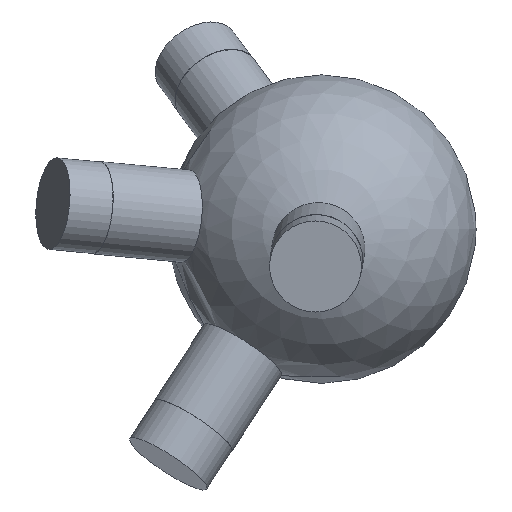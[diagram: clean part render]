
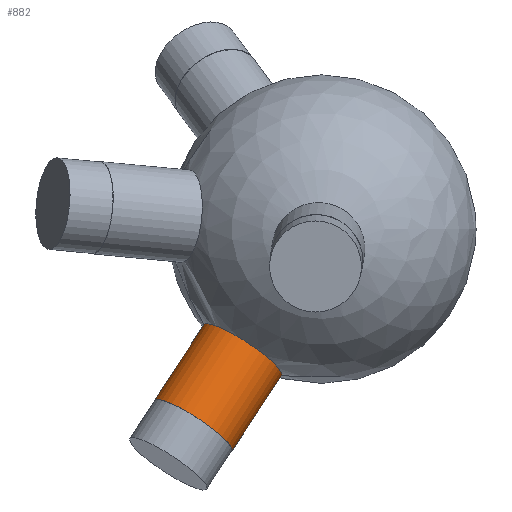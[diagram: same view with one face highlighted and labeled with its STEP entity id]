
A CAD part, top view. The second image highlights one B-rep face of the part: STEP entity #882.
In plain terms, the highlighted cylindrical face has radius 6 mm (diameter 12 mm), a full revolution.
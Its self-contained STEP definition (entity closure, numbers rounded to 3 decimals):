
#33 = SPHERICAL_SURFACE('',#34,20.);
#34 = AXIS2_PLACEMENT_3D('',#35,#36,#37);
#35 = CARTESIAN_POINT('',(0.,0.,0.));
#36 = DIRECTION('',(0.,0.,1.));
#37 = DIRECTION('',(1.,0.,-0.));
#577 = EDGE_CURVE('',#578,#578,#580,.T.);
#578 = VERTEX_POINT('',#579);
#579 = CARTESIAN_POINT('',(-15.273,-12.398,3.609
    ));
#580 = SURFACE_CURVE('',#581,(#586,#648),.PCURVE_S1.);
#581 = CIRCLE('',#582,6.);
#582 = AXIS2_PLACEMENT_3D('',#583,#584,#585);
#583 = CARTESIAN_POINT('',(-10.251,-15.681,3.609
    ));
#584 = DIRECTION('',(-0.537,-0.822,0.189));
#585 = DIRECTION('',(0.837,-0.547,0.)
  );
#586 = PCURVE('',#33,#587);
#587 = DEFINITIONAL_REPRESENTATION('',(#588),#647);
#588 = B_SPLINE_CURVE_WITH_KNOTS('',8,(#589,#590,#591,#592,#593,#594,
    #595,#596,#597,#598,#599,#600,#601,#602,#603,#604,#605,#606,#607,
    #608,#609,#610,#611,#612,#613,#614,#615,#616,#617,#618,#619,#620,
    #621,#622,#623,#624,#625,#626,#627,#628,#629,#630,#631,#632,#633,
    #634,#635,#636,#637,#638,#639,#640,#641,#642,#643,#644,#645,#646),
  .UNSPECIFIED.,.F.,.F.,(9,7,7,7,7,7,7,7,9),(3.142,
    3.927,4.614,5.216,6.268,
    7.057,7.649,8.537,9.425),
  .UNSPECIFIED.);
#589 = CARTESIAN_POINT('',(3.823,0.181));
#590 = CARTESIAN_POINT('',(3.825,0.152));
#591 = CARTESIAN_POINT('',(3.83,0.123));
#592 = CARTESIAN_POINT('',(3.838,0.094));
#593 = CARTESIAN_POINT('',(3.849,0.066));
#594 = CARTESIAN_POINT('',(3.863,0.04));
#595 = CARTESIAN_POINT('',(3.879,0.015));
#596 = CARTESIAN_POINT('',(3.898,-0.007));
#597 = CARTESIAN_POINT('',(3.938,-0.046));
#598 = CARTESIAN_POINT('',(3.958,-0.062));
#599 = CARTESIAN_POINT('',(3.98,-0.076));
#600 = CARTESIAN_POINT('',(4.003,-0.088));
#601 = CARTESIAN_POINT('',(4.027,-0.098));
#602 = CARTESIAN_POINT('',(4.052,-0.106));
#603 = CARTESIAN_POINT('',(4.078,-0.11));
#604 = CARTESIAN_POINT('',(4.126,-0.115));
#605 = CARTESIAN_POINT('',(4.149,-0.115));
#606 = CARTESIAN_POINT('',(4.172,-0.114));
#607 = CARTESIAN_POINT('',(4.195,-0.11));
#608 = CARTESIAN_POINT('',(4.217,-0.105));
#609 = CARTESIAN_POINT('',(4.238,-0.097));
#610 = CARTESIAN_POINT('',(4.259,-0.088));
#611 = CARTESIAN_POINT('',(4.314,-0.059));
#612 = CARTESIAN_POINT('',(4.346,-0.035));
#613 = CARTESIAN_POINT('',(4.374,-0.007));
#614 = CARTESIAN_POINT('',(4.398,0.026));
#615 = CARTESIAN_POINT('',(4.418,0.061));
#616 = CARTESIAN_POINT('',(4.432,0.099));
#617 = CARTESIAN_POINT('',(4.44,0.137));
#618 = CARTESIAN_POINT('',(4.445,0.206));
#619 = CARTESIAN_POINT('',(4.444,0.236));
#620 = CARTESIAN_POINT('',(4.44,0.266));
#621 = CARTESIAN_POINT('',(4.432,0.295));
#622 = CARTESIAN_POINT('',(4.421,0.323));
#623 = CARTESIAN_POINT('',(4.407,0.349));
#624 = CARTESIAN_POINT('',(4.389,0.374));
#625 = CARTESIAN_POINT('',(4.353,0.414));
#626 = CARTESIAN_POINT('',(4.335,0.429));
#627 = CARTESIAN_POINT('',(4.316,0.443));
#628 = CARTESIAN_POINT('',(4.296,0.456));
#629 = CARTESIAN_POINT('',(4.274,0.467));
#630 = CARTESIAN_POINT('',(4.251,0.476));
#631 = CARTESIAN_POINT('',(4.227,0.483));
#632 = CARTESIAN_POINT('',(4.166,0.496));
#633 = CARTESIAN_POINT('',(4.128,0.498));
#634 = CARTESIAN_POINT('',(4.089,0.497));
#635 = CARTESIAN_POINT('',(4.051,0.49));
#636 = CARTESIAN_POINT('',(4.015,0.479));
#637 = CARTESIAN_POINT('',(3.982,0.463));
#638 = CARTESIAN_POINT('',(3.951,0.444));
#639 = CARTESIAN_POINT('',(3.898,0.399));
#640 = CARTESIAN_POINT('',(3.874,0.373));
#641 = CARTESIAN_POINT('',(3.855,0.344));
#642 = CARTESIAN_POINT('',(3.84,0.314));
#643 = CARTESIAN_POINT('',(3.83,0.281));
#644 = CARTESIAN_POINT('',(3.824,0.248));
#645 = CARTESIAN_POINT('',(3.822,0.215));
#646 = CARTESIAN_POINT('',(3.823,0.181));
#647 = ( GEOMETRIC_REPRESENTATION_CONTEXT(2) 
PARAMETRIC_REPRESENTATION_CONTEXT() REPRESENTATION_CONTEXT('2D SPACE',''
  ) );
#648 = PCURVE('',#649,#654);
#649 = CYLINDRICAL_SURFACE('',#650,6.);
#650 = AXIS2_PLACEMENT_3D('',#651,#652,#653);
#651 = CARTESIAN_POINT('',(0.,0.,0.));
#652 = DIRECTION('',(-0.537,-0.822,0.189));
#653 = DIRECTION('',(-0.837,0.547,0.)
  );
#654 = DEFINITIONAL_REPRESENTATION('',(#655),#659);
#655 = LINE('',#656,#657);
#656 = CARTESIAN_POINT('',(-3.142,19.079));
#657 = VECTOR('',#658,1.);
#658 = DIRECTION('',(1.,0.));
#659 = ( GEOMETRIC_REPRESENTATION_CONTEXT(2) 
PARAMETRIC_REPRESENTATION_CONTEXT() REPRESENTATION_CONTEXT('2D SPACE',''
  ) );
#882 = ADVANCED_FACE('',(#883),#649,.T.);
#883 = FACE_BOUND('',#884,.T.);
#884 = EDGE_LOOP('',(#885,#908,#935,#936));
#885 = ORIENTED_EDGE('',*,*,#886,.T.);
#886 = EDGE_CURVE('',#578,#887,#889,.T.);
#887 = VERTEX_POINT('',#888);
#888 = CARTESIAN_POINT('',(-21.678,-22.196,
    5.863));
#889 = SEAM_CURVE('',#890,(#894,#901),.PCURVE_S1.);
#890 = LINE('',#891,#892);
#891 = CARTESIAN_POINT('',(-5.022,3.283,
    0.));
#892 = VECTOR('',#893,1.);
#893 = DIRECTION('',(-0.537,-0.822,0.189));
#894 = PCURVE('',#649,#895);
#895 = DEFINITIONAL_REPRESENTATION('',(#896),#900);
#896 = LINE('',#897,#898);
#897 = CARTESIAN_POINT('',(6.283,-0.));
#898 = VECTOR('',#899,1.);
#899 = DIRECTION('',(0.,1.));
#900 = ( GEOMETRIC_REPRESENTATION_CONTEXT(2) 
PARAMETRIC_REPRESENTATION_CONTEXT() REPRESENTATION_CONTEXT('2D SPACE',''
  ) );
#901 = PCURVE('',#649,#902);
#902 = DEFINITIONAL_REPRESENTATION('',(#903),#907);
#903 = LINE('',#904,#905);
#904 = CARTESIAN_POINT('',(0.,-0.));
#905 = VECTOR('',#906,1.);
#906 = DIRECTION('',(0.,1.));
#907 = ( GEOMETRIC_REPRESENTATION_CONTEXT(2) 
PARAMETRIC_REPRESENTATION_CONTEXT() REPRESENTATION_CONTEXT('2D SPACE',''
  ) );
#908 = ORIENTED_EDGE('',*,*,#909,.F.);
#909 = EDGE_CURVE('',#887,#887,#910,.T.);
#910 = SURFACE_CURVE('',#911,(#916,#923),.PCURVE_S1.);
#911 = CIRCLE('',#912,6.);
#912 = AXIS2_PLACEMENT_3D('',#913,#914,#915);
#913 = CARTESIAN_POINT('',(-16.656,-25.479,5.863)
  );
#914 = DIRECTION('',(-0.537,-0.822,0.189));
#915 = DIRECTION('',(-0.837,0.547,0.)
  );
#916 = PCURVE('',#649,#917);
#917 = DEFINITIONAL_REPRESENTATION('',(#918),#922);
#918 = LINE('',#919,#920);
#919 = CARTESIAN_POINT('',(0.,31.));
#920 = VECTOR('',#921,1.);
#921 = DIRECTION('',(1.,0.));
#922 = ( GEOMETRIC_REPRESENTATION_CONTEXT(2) 
PARAMETRIC_REPRESENTATION_CONTEXT() REPRESENTATION_CONTEXT('2D SPACE',''
  ) );
#923 = PCURVE('',#924,#929);
#924 = PLANE('',#925);
#925 = AXIS2_PLACEMENT_3D('',#926,#927,#928);
#926 = CARTESIAN_POINT('',(-16.656,-25.479,5.863)
  );
#927 = DIRECTION('',(-0.537,-0.822,0.189));
#928 = DIRECTION('',(-0.837,0.547,0.)
  );
#929 = DEFINITIONAL_REPRESENTATION('',(#930),#934);
#930 = CIRCLE('',#931,6.);
#931 = AXIS2_PLACEMENT_2D('',#932,#933);
#932 = CARTESIAN_POINT('',(0.,0.));
#933 = DIRECTION('',(1.,0.));
#934 = ( GEOMETRIC_REPRESENTATION_CONTEXT(2) 
PARAMETRIC_REPRESENTATION_CONTEXT() REPRESENTATION_CONTEXT('2D SPACE',''
  ) );
#935 = ORIENTED_EDGE('',*,*,#886,.F.);
#936 = ORIENTED_EDGE('',*,*,#577,.T.);
